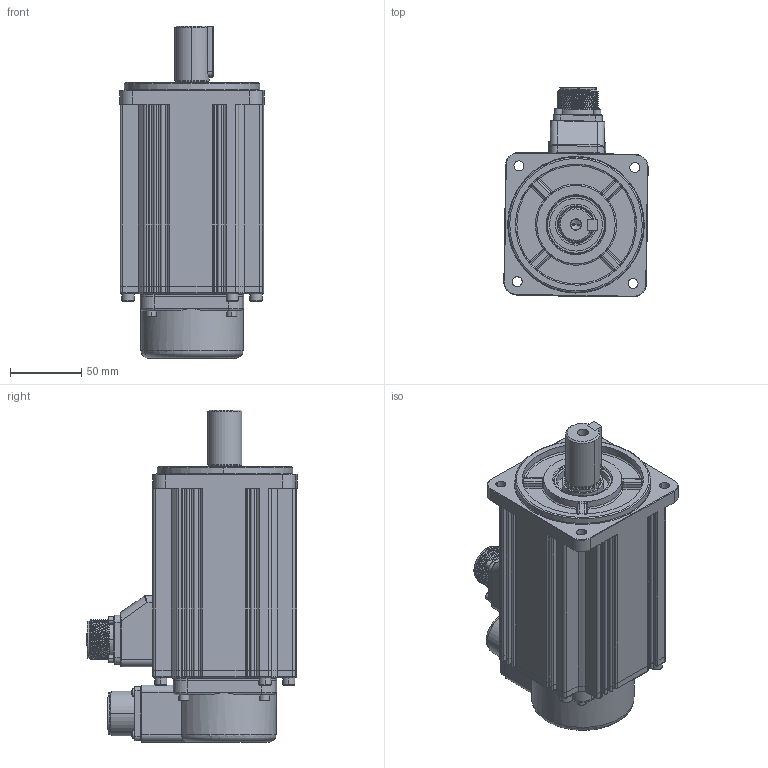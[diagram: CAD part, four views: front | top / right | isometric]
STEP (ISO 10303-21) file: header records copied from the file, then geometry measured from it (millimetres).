
FILE_DESCRIPTION((''),'2;1');
FILE_NAME('IMS20B-10M25C30C_ASM_ASM','2025-05-20T12:33:03',('admin'),(''),'CREO PARAMETRIC BY PTC INC, 2019080','CREO PARAMETRIC BY PTC INC, 2019080','');
FILE_SCHEMA(('CONFIG_CONTROL_DESIGN'));
Products named in the file (103): 100-DZTX-25C_AF0_1; 100-DZTX-25C_AF1_1; 100-DZTX-25C_AF2_1; 100-DZTX-25C_AF3_1; 100-DZTX-25C_AF4_1; 100-DZTX-25C_AF5_1; 100-DZTX-25C_AF6_1; 100-DZTX-25C_AF7_1; 100-DZTX-25C_AF8_1; 100-DZTX-25C_AF9_1; 100-DZTX-25C_AF10_1; 100-DZTX-25C_AF11_1; 100-GUJIA-25C-PIN_AF0_1; 100-GUJIA-25C-PIN_AF1_1; 100-GUJIA-25C-PIN_AF2_1; 100-GUJIA-25C-PIN_AF3_1; 100-GUJIA-25C-PIN_AF4_1; 100-GUJIA-25C-PIN_AF5_1; 100-GUJIA-25C-PIN_AF6_1; 100-GUJIA-25C-PIN_AF7_1; 100-GUJIA-25C-PIN_AF8_1; 100-GUJIA-25C-PIN_AF9_1; 100-GUJIA-25C-PIN_AF10_1; 100-GUJIA-25C-PIN_AF11_1; 100-GUJIA-25C-WU-PIN_AF0_1; 100-GUJIA-25C-WU-PIN_AF1_1; 100-GUJIA-25C-WU-PIN_AF2_1; 100-GUJIA-25C-WU-PIN_AF3_1; 100-GUJIA-25C-WU-PIN_AF4_1; 100-GUJIA-25C-WU-PIN_AF5_1; 100-GUJIA-25C-WU-PIN_AF6_1; 100-GUJIA-25C-WU-PIN_AF7_1; 100-GUJIA-25C-WU-PIN_AF8_1; 100-GUJIA-25C-WU-PIN_AF9_1; 100-GUJIA-25C-WU-PIN_AF10_1; 100-GUJIA-25C-WU-PIN_AF11_1; 100_PCB_1_AF0_1; 100_JIKE_25C_L80_AF0_2; 50058-00155_1; 50051-00115_1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
Assembly tree (105 placements, depth 4):
  IMS20B-10M25C30C_ASM_ASM
    IMS20B-10M25C30C_ASM_3_ASM
      100_DZZJ_25C_AF0_ASM_2_ASM
        100-DZTX-25C_AF0_1
        100-DZTX-25C_AF1_1
        100-DZTX-25C_AF2_1
        100-DZTX-25C_AF3_1
        100-DZTX-25C_AF4_1
        100-DZTX-25C_AF5_1
        100-DZTX-25C_AF6_1
        100-DZTX-25C_AF7_1
        100-DZTX-25C_AF8_1
        100-DZTX-25C_AF9_1
        100-DZTX-25C_AF10_1
        100-DZTX-25C_AF11_1
        100-GUJIA-25C-PIN_AF0_1
        100-GUJIA-25C-PIN_AF1_1
        100-GUJIA-25C-PIN_AF2_1
        100-GUJIA-25C-PIN_AF3_1
        100-GUJIA-25C-PIN_AF4_1
        100-GUJIA-25C-PIN_AF5_1
        100-GUJIA-25C-PIN_AF6_1
        100-GUJIA-25C-PIN_AF7_1
        100-GUJIA-25C-PIN_AF8_1
        100-GUJIA-25C-PIN_AF9_1
        100-GUJIA-25C-PIN_AF10_1
        100-GUJIA-25C-PIN_AF11_1
        100-GUJIA-25C-WU-PIN_AF0_1
        100-GUJIA-25C-WU-PIN_AF1_1
        100-GUJIA-25C-WU-PIN_AF2_1
        100-GUJIA-25C-WU-PIN_AF3_1
        100-GUJIA-25C-WU-PIN_AF4_1
        100-GUJIA-25C-WU-PIN_AF5_1
        100-GUJIA-25C-WU-PIN_AF6_1
        100-GUJIA-25C-WU-PIN_AF7_1
        100-GUJIA-25C-WU-PIN_AF8_1
        100-GUJIA-25C-WU-PIN_AF9_1
        100-GUJIA-25C-WU-PIN_AF10_1
        100-GUJIA-25C-WU-PIN_AF11_1
        100_PCB_1_AF0_1
        100_JIKE_25C_L80_AF0_2
        50058-00155_1
        50051-00115_1
        18-A6-18FLANGE-CUSTOM-3D_1
        ISO4762-M3X330-8_8_AF0_1
        ISO4762-M3X330-8_8_AF1_1
        ISO4762-M3X330-8_8_AF2_1
        ISO4762-M3X330-8_8_AF3_1
      100_ZZZJ_25C_AF0_ASM_1_ASM
        100-25C_ZHOU_L80_AF0_1
        100-ZZTX-32_AF0_1
        100-ZZTX-32_AF1_1
        100-ZZTX-16_AF0_1
        100-CIGANG-32L-S_AF0_1
        100-CIGANG-32L-S_AF1_1
        100-CIGANG-16L-S_AF0_1
        100-CIGANG-32L-S_AF2_1
        100-CIGANG-32L-S_AF3_1
        100-CIGANG-16L-S_AF1_1
        100-CIGANG-32L-S_AF4_1
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Bounding box: 101.25 x 147.41 x 233 mm (x, y, z)
Volume: 426300.5 mm3; surface area: 242547.4 mm2
Topology: 26 solids, 64 shells, 4235 faces, 11619 edges, 7631 vertices
Faces by surface type: plane 2053, cylinder 916, extrusion 812, torus 213, cone 120, sphere 77, bspline 44
Entity records: 145903 total; most frequent: CARTESIAN_POINT 39634, ORIENTED_EDGE 22528, DIRECTION 19959, EDGE_CURVE 11328, VECTOR 7569, VERTEX_POINT 7505, LINE 6757, AXIS2_PLACEMENT_3D 6195
